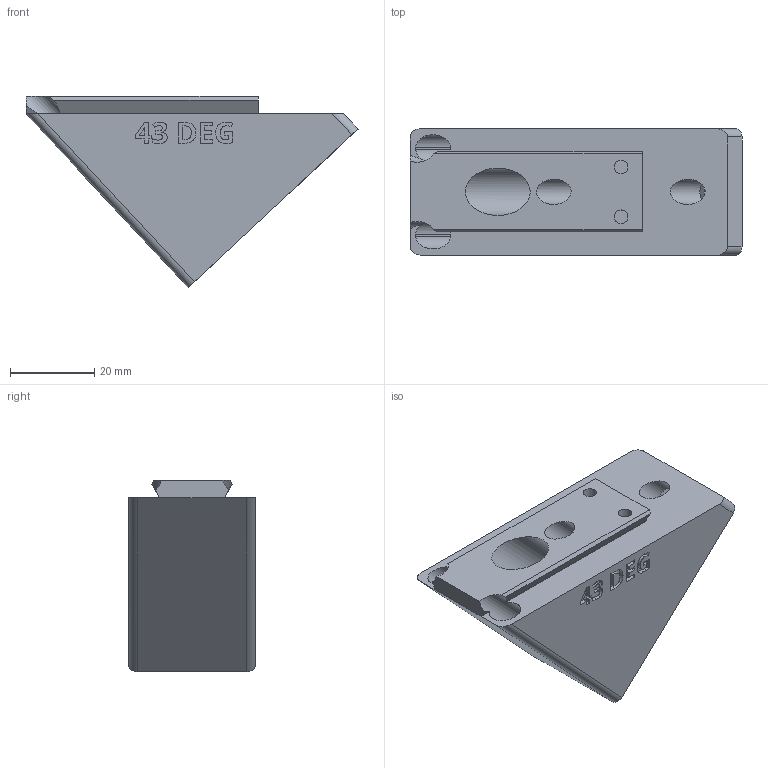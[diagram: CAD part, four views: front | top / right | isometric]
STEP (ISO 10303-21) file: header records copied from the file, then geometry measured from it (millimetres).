
FILE_DESCRIPTION(/* description */ ('STEP AP242 Edition 2','CAx-IF Rec.Pracs.---Representation and Presentation of Product Manufacturing Information (PMI)---4.0---2014-10-13','CAx-IF Rec.Pracs.---3D Tessellated Geometry---0.4---2014-09-14','2;1','CAx-IF Rec.Pracs.---User Defined Attributes---1.5---2016-08-15'),/* implementation_level */ '2;1');
FILE_NAME(/* name */ 'Camera Wedges - CAMERA MOUNTING WEDGE, POS, 43 DEG',/* time_stamp */ '2026-07-08T20:40:33Z',/* author */ (''),/* organization */ (''),/* preprocessor_version */ 'ST-DEVELOPER v20',/* originating_system */ 'ONSHAPE BY PTC INC, 1.217',/* authorisation */ ' ');
FILE_SCHEMA (('AP242_MANAGED_MODEL_BASED_3D_ENGINEERING_MIM_LF { 1 0 10303 442 3 1 4 }'));
Length unit declared in the file: metre
Products named in the file (1): CAMERA MOUNTING WEDGE, POS, 43 DEG
Bounding box: 78.61 x 30 x 45.27 mm (x, y, z)
Volume: 44894.3 mm3; surface area: 14361 mm2
Topology: 1 solids, 1 shells, 265 faces, 730 edges, 487 vertices
Faces by surface type: plane 153, bspline 64, cylinder 48
Full cylindrical faces by diameter (mm): 3.2 x4, 6 x2, 6.4 x1, 11.2 x1
Entity records: 8591 total; most frequent: CARTESIAN_POINT 2173, ORIENTED_EDGE 1438, DIRECTION 1103, EDGE_CURVE 719, VERTEX_POINT 484, LINE 483, VECTOR 483, AXIS2_PLACEMENT_3D 310
